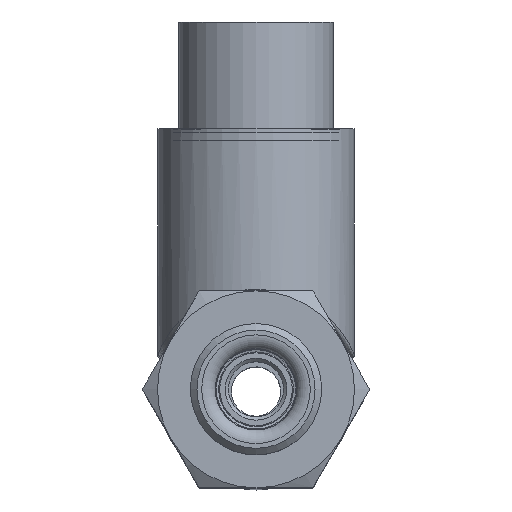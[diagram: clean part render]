
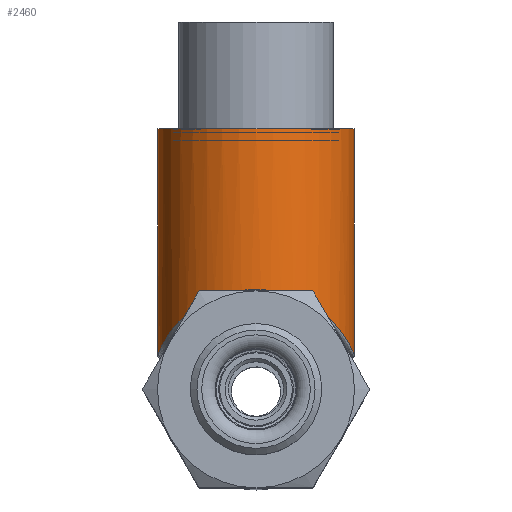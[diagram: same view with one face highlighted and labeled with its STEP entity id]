
A CAD part, top view. The second image highlights one B-rep face of the part: STEP entity #2460.
In plain terms, the highlighted cylindrical face has radius 9.525 mm (diameter 19.05 mm), a full revolution.
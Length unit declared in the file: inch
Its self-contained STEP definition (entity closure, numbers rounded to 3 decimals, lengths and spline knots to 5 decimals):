
#75=B_SPLINE_CURVE_WITH_KNOTS('',3,(#4416,#4417,#4418,#4419,#4420,#4421,
#4422,#4423,#4424,#4425,#4426,#4427,#4428,#4429,#4430,#4431,#4432,#4433,
#4434,#4435,#4436,#4437,#4438,#4439,#4440,#4441,#4442,#4443,#4444,#4445),
 .UNSPECIFIED.,.F.,.F.,(4,1,1,1,1,1,1,1,1,1,1,1,1,1,1,1,1,1,1,1,1,1,1,1,
1,1,1,4),(-9.63704,-9.40762,-9.17816,-8.71925,
-8.41331,-8.26035,-8.10738,-8.03089,
-7.95441,-7.80144,-7.4955,-6.88362,
-6.57768,-6.27174,-5.9658,-5.65987,
-5.35393,-5.04799,-4.93326,-4.81853,
-4.70381,-4.58908,-4.47435,-4.35963,
-4.13017,-3.67126,-3.44181,-3.21236),
 .UNSPECIFIED.);
#276=FACE_OUTER_BOUND('',#449,.T.);
#449=EDGE_LOOP('',(#1675,#1676,#1677,#1678));
#642=LINE('',#4480,#757);
#757=VECTOR('',#3149,0.375);
#878=CIRCLE('',#2758,0.375);
#1057=VERTEX_POINT('',#4415);
#1059=VERTEX_POINT('',#4479);
#1288=EDGE_CURVE('',#1057,#1057,#75,.T.);
#1291=EDGE_CURVE('',#1059,#1057,#642,.T.);
#1292=EDGE_CURVE('',#1059,#1059,#878,.T.);
#1675=ORIENTED_EDGE('',*,*,#1288,.F.);
#1676=ORIENTED_EDGE('',*,*,#1291,.F.);
#1677=ORIENTED_EDGE('',*,*,#1292,.F.);
#1678=ORIENTED_EDGE('',*,*,#1291,.T.);
#2237=CYLINDRICAL_SURFACE('',#2757,0.375);
#2460=ADVANCED_FACE('',(#276),#2237,.T.);
#2757=AXIS2_PLACEMENT_3D('',#4478,#3147,#3148);
#2758=AXIS2_PLACEMENT_3D('',#4481,#3150,#3151);
#3147=DIRECTION('center_axis',(0.,1.,0.));
#3148=DIRECTION('ref_axis',(0.,0.,
1.));
#3149=DIRECTION('',(0.,-1.,0.));
#3150=DIRECTION('center_axis',(0.,1.,0.));
#3151=DIRECTION('ref_axis',(0.,0.,
1.));
#4415=CARTESIAN_POINT('',(0.,0.3875,-1.62));
#4416=CARTESIAN_POINT('Ctrl Pts',(0.,0.3875,
-1.62));
#4417=CARTESIAN_POINT('Ctrl Pts',(0.03115,0.3875,
-1.62));
#4418=CARTESIAN_POINT('Ctrl Pts',(0.09333,0.38037,
-1.61214));
#4419=CARTESIAN_POINT('Ctrl Pts',(0.2046,0.34112,-1.56843));
#4420=CARTESIAN_POINT('Ctrl Pts',(0.29321,0.27238,-1.49028));
#4421=CARTESIAN_POINT('Ctrl Pts',(0.3437,0.20219,-1.40173));
#4422=CARTESIAN_POINT('Ctrl Pts',(0.36561,0.15994,-1.33434));
#4423=CARTESIAN_POINT('Ctrl Pts',(0.37367,0.14038,-1.28655));
#4424=CARTESIAN_POINT('Ctrl Pts',(0.37544,0.13579,-1.24498));
#4425=CARTESIAN_POINT('Ctrl Pts',(0.37369,0.14033,-1.20342));
#4426=CARTESIAN_POINT('Ctrl Pts',(0.36223,0.16823,-1.1366));
#4427=CARTESIAN_POINT('Ctrl Pts',(0.31693,0.24871,-1.02603));
#4428=CARTESIAN_POINT('Ctrl Pts',(0.21707,0.34021,-0.92267));
#4429=CARTESIAN_POINT('Ctrl Pts',(0.06399,0.38905,
-0.86819));
#4430=CARTESIAN_POINT('Ctrl Pts',(-0.06404,0.3889,
-0.86846));
#4431=CARTESIAN_POINT('Ctrl Pts',(-0.1787,0.35268,
-0.90864));
#4432=CARTESIAN_POINT('Ctrl Pts',(-0.26714,0.29416,
-0.97483));
#4433=CARTESIAN_POINT('Ctrl Pts',(-0.32977,0.22591,
-1.05717));
#4434=CARTESIAN_POINT('Ctrl Pts',(-0.36065,0.17105,
-1.13288));
#4435=CARTESIAN_POINT('Ctrl Pts',(-0.37301,0.14215,
-1.19838));
#4436=CARTESIAN_POINT('Ctrl Pts',(-0.376,0.1343,
-1.24507));
#4437=CARTESIAN_POINT('Ctrl Pts',(-0.373,0.14218,
-1.29163));
#4438=CARTESIAN_POINT('Ctrl Pts',(-0.36509,0.1606,
-1.33384));
#4439=CARTESIAN_POINT('Ctrl Pts',(-0.35345,0.1835,-1.37236));
#4440=CARTESIAN_POINT('Ctrl Pts',(-0.33327,0.21695,
-1.42023));
#4441=CARTESIAN_POINT('Ctrl Pts',(-0.28643,0.27756,
-1.49632));
#4442=CARTESIAN_POINT('Ctrl Pts',(-0.20458,0.34118,-1.56844));
#4443=CARTESIAN_POINT('Ctrl Pts',(-0.09337,0.38033,
-1.61211));
#4444=CARTESIAN_POINT('Ctrl Pts',(-0.03116,0.3875,
-1.62));
#4445=CARTESIAN_POINT('Ctrl Pts',(-0.00001,0.3875,
-1.62));
#4478=CARTESIAN_POINT('Origin',(0.,0.5,-1.245));
#4479=CARTESIAN_POINT('',(0.,1.,-1.62));
#4480=CARTESIAN_POINT('',(0.,0.5,-1.62));
#4481=CARTESIAN_POINT('Origin',(0.,1.,-1.245));
